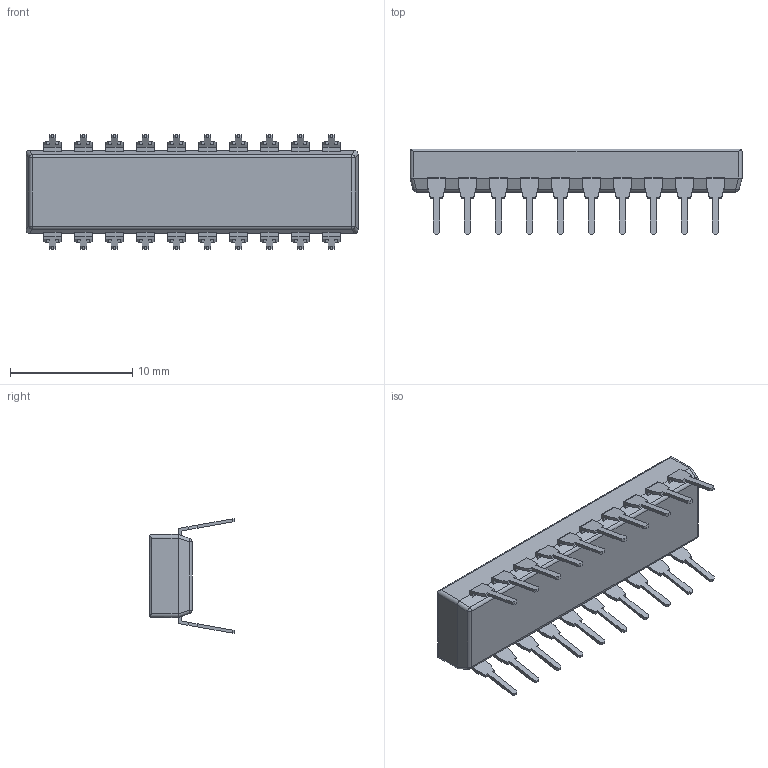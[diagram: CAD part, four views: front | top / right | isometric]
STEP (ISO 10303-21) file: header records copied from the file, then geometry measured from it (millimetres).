
FILE_DESCRIPTION (( 'STEP AP214' ), '1' );
FILE_NAME ('SSGM2A0100.STEP', '2011-04-10T02:03:43', ( '' ), ( '' ), 'SwSTEP 2.0', 'SolidWorks 2007', '' );
FILE_SCHEMA (( 'AUTOMOTIVE_DESIGN' ));
Length unit declared in the file: millimetre
Products named in the file (1): SSGM2A0100
Bounding box: 27.2 x 7 x 9.41 mm (x, y, z)
Volume: 633.9 mm3; surface area: 1086.3 mm2
Topology: 2 solids, 2 shells, 586 faces, 1618 edges, 1052 vertices
Faces by surface type: plane 516, cylinder 66, sphere 4
Entity records: 23945 total; most frequent: CARTESIAN_POINT 3333, ORIENTED_EDGE 3228, DIRECTION 2876, EDGE_CURVE 1614, LINE 1478, VECTOR 1478, VERTEX_POINT 1052, AXIS2_PLACEMENT_3D 699
